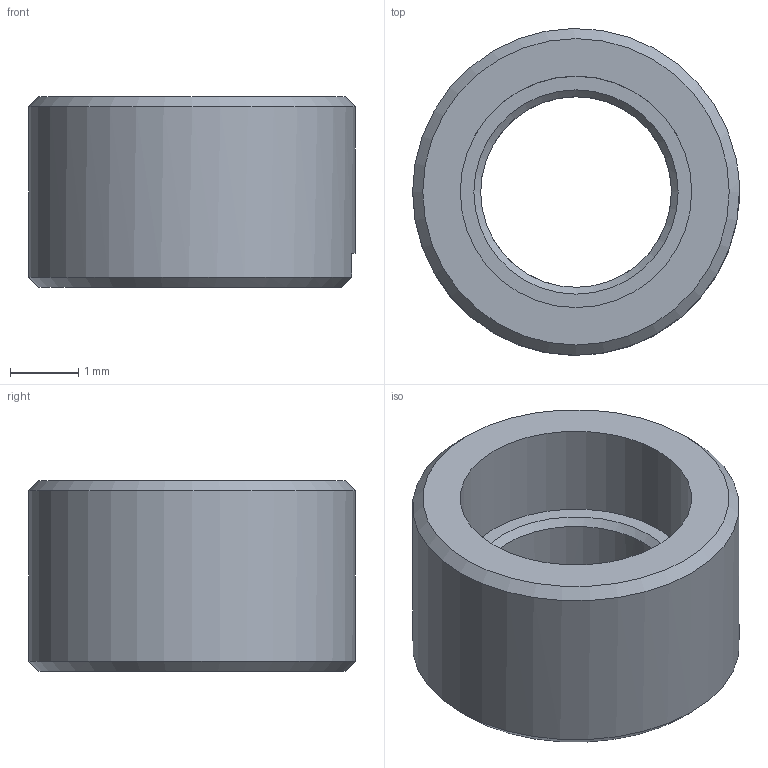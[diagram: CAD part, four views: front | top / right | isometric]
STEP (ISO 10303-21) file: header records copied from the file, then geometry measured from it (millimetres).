
FILE_DESCRIPTION(('Open CASCADE Model'),'2;1');
FILE_NAME('Open CASCADE Shape Model','2026-11-24T19:57:39',('Author'),( 'Open CASCADE'),'Open CASCADE STEP processor 7.8','Open CASCADE 7.8' ,'Unknown');
FILE_SCHEMA(('AUTOMOTIVE_DESIGN { 1 0 10303 214 1 1 1 1 }'));
Length unit declared in the file: millimetre
Products named in the file (1): Open CASCADE STEP translator 7.8 63
Bounding box: 4.8 x 4.8 x 2.8 mm (x, y, z)
Volume: 28.4 mm3; surface area: 89.6 mm2
Topology: 1 solids, 1 shells, 13 faces, 32 edges, 21 vertices
Faces by surface type: plane 6, cone 4, cylinder 3
Full cylindrical faces by diameter (mm): 2.8 x1, 3.4 x1, 4.8 x1
Entity records: 838 total; most frequent: CARTESIAN_POINT 188, DIRECTION 122, ORIENTED_EDGE 64, PCURVE 64, DEFINITIONAL_REPRESENTATION 64, LINE 56, VECTOR 56, EDGE_CURVE 32
